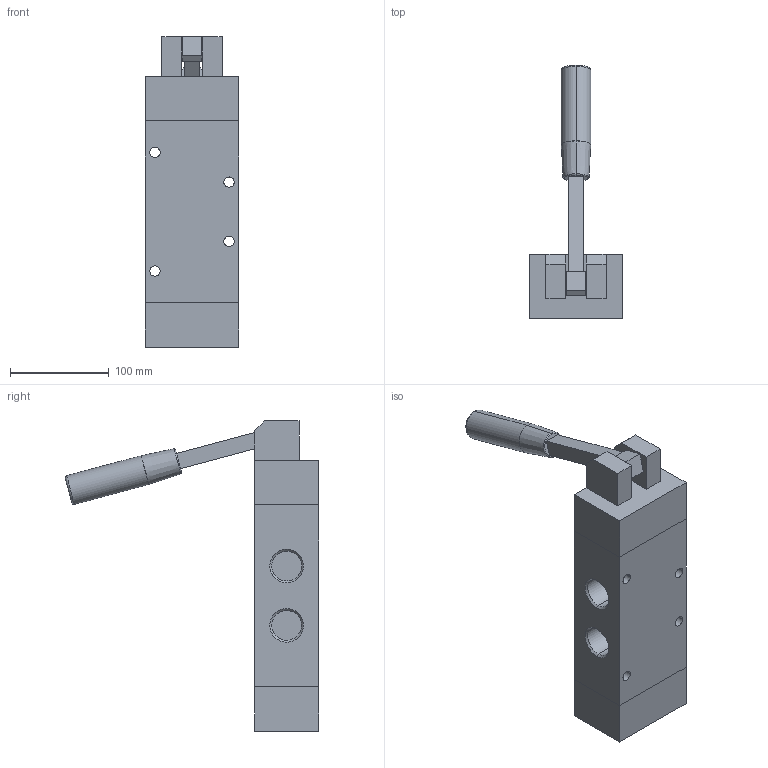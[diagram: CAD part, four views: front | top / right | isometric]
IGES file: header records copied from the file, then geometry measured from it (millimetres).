
Global section: file name: No Iges File Name specified; native system: AutoDesk Inventor R11.0; preprocessor: AutoDesk Inventor Iges Exporter R11.0; author: No Author specified; organization: No Organization specified; date: 20061219.113235; units: millimetre
Bounding box: 95 x 256.51 x 314 mm (x, y, z)
Volume: 1762219.6 mm3; surface area: 149647 mm2
Topology: 2 solids, 2 shells, 91 faces, 204 edges, 130 vertices
Faces by surface type: plane 42, bspline 25, revolution 14, torus 6, cone 2, cylinder 2
